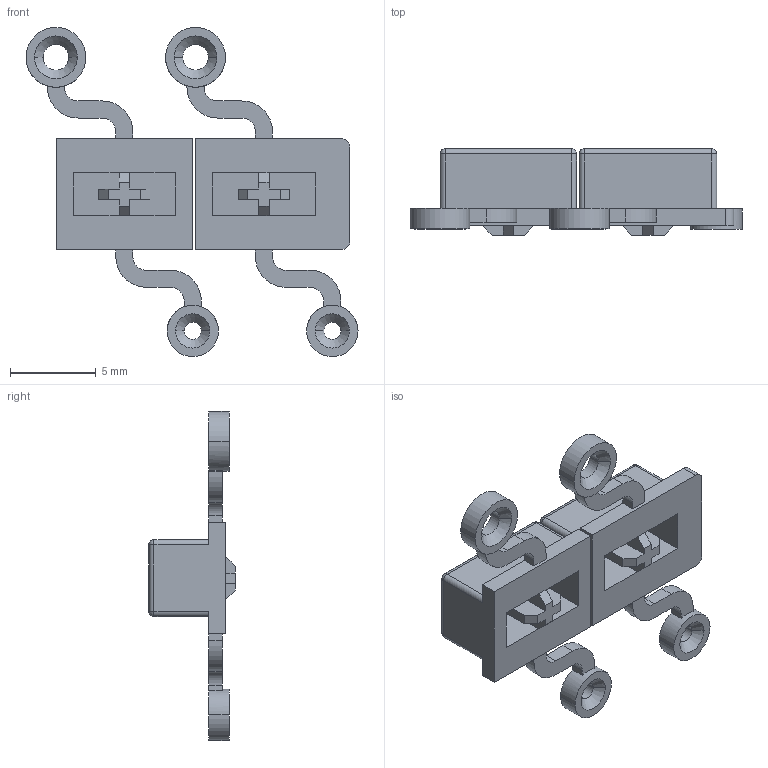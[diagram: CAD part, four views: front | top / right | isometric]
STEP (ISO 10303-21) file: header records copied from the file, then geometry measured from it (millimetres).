
FILE_DESCRIPTION((''),'2;1');
FILE_NAME('TOP_AJ','2024-12-18T',('18137'),(''),'CREO PARAMETRIC BY PTC INC, 2016050','CREO PARAMETRIC BY PTC INC, 2016050','');
FILE_SCHEMA(('CONFIG_CONTROL_DESIGN'));
Length unit declared in the file: millimetre
Products named in the file (1): TOP_AJ
Bounding box: 19.41 x 5.05 x 19.25 mm (x, y, z)
Volume: 330.1 mm3; surface area: 835.3 mm2
Topology: 2 solids, 2 shells, 164 faces, 434 edges, 276 vertices
Faces by surface type: plane 98, cylinder 50, cone 8, sphere 8
Entity records: 5086 total; most frequent: DIRECTION 878, CARTESIAN_POINT 874, ORIENTED_EDGE 868, EDGE_CURVE 434, VECTOR 318, LINE 318, AXIS2_PLACEMENT_3D 280, VERTEX_POINT 276
